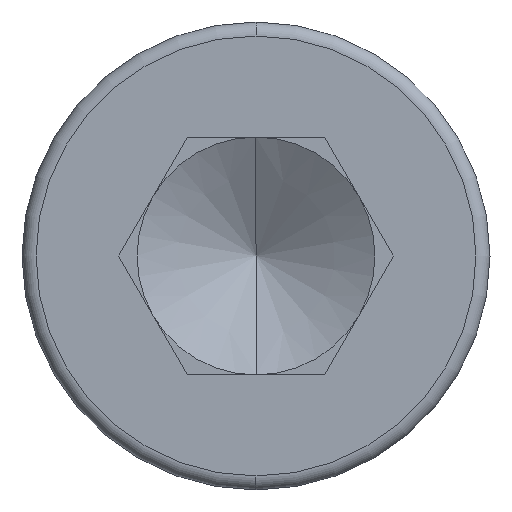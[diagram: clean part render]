
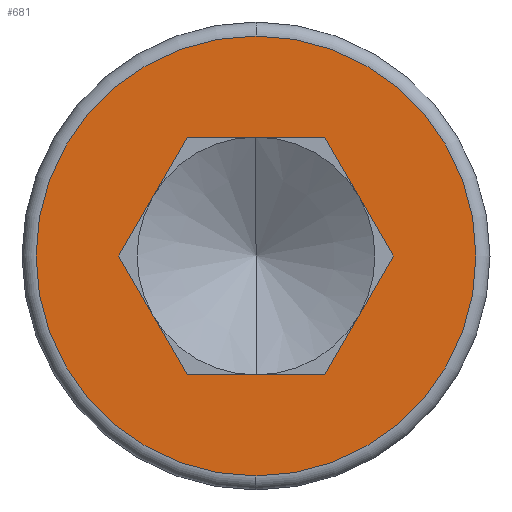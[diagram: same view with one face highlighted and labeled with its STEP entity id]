
A CAD part, left-side view. The second image highlights one B-rep face of the part: STEP entity #681.
In plain terms, the highlighted planar face has unit normal (-1, 0, 0).
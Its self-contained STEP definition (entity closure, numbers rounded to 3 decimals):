
#87 = CIRCLE ( 'NONE', #626, 4.7 ) ;
#232 = CARTESIAN_POINT ( 'NONE',  ( 0., -1.468, 2.542 ) ) ;
#236 = ORIENTED_EDGE ( 'NONE', *, *, #2001, .T. ) ;
#275 = DIRECTION ( 'NONE',  ( 0., 1., 0. ) ) ;
#362 = ORIENTED_EDGE ( 'NONE', *, *, #2121, .F. ) ;
#379 = CARTESIAN_POINT ( 'NONE',  ( 0., 2.935, 0. ) ) ;
#460 = EDGE_CURVE ( 'NONE', #2323, #2537, #1451, .T. ) ;
#488 = ORIENTED_EDGE ( 'NONE', *, *, #612, .T. ) ;
#531 = DIRECTION ( 'NONE',  ( 0., -1., 0. ) ) ;
#537 = CARTESIAN_POINT ( 'NONE',  ( 0., -1.468, 2.542 ) ) ;
#608 = CARTESIAN_POINT ( 'NONE',  ( 0., 0., 0. ) ) ;
#612 = EDGE_CURVE ( 'NONE', #2537, #3528, #1920, .T. ) ;
#626 = AXIS2_PLACEMENT_3D ( 'NONE', #984, #3163, #923 ) ;
#681 = ADVANCED_FACE ( 'NONE', ( #4116, #1243 ), #1264, .T. ) ;
#690 = EDGE_LOOP ( 'NONE', ( #1201, #236 ) ) ;
#780 = VERTEX_POINT ( 'NONE', #3551 ) ;
#865 = VERTEX_POINT ( 'NONE', #1328 ) ;
#923 = DIRECTION ( 'NONE',  ( 0., 0., 1. ) ) ;
#927 = ORIENTED_EDGE ( 'NONE', *, *, #3944, .F. ) ;
#964 = CARTESIAN_POINT ( 'NONE',  ( 0., 2.935, 0. ) ) ;
#984 = CARTESIAN_POINT ( 'NONE',  ( 0., 0., 0. ) ) ;
#998 = CIRCLE ( 'NONE', #3812, 4.7 ) ;
#1201 = ORIENTED_EDGE ( 'NONE', *, *, #3187, .T. ) ;
#1241 = VERTEX_POINT ( 'NONE', #3242 ) ;
#1243 = FACE_OUTER_BOUND ( 'NONE', #690, .T. ) ;
#1264 = PLANE ( 'NONE',  #2046 ) ;
#1328 = CARTESIAN_POINT ( 'NONE',  ( 0., 1.468, 2.542 ) ) ;
#1451 = LINE ( 'NONE', #537, #2245 ) ;
#1613 = LINE ( 'NONE', #964, #1927 ) ;
#1810 = CARTESIAN_POINT ( 'NONE',  ( 0., 0., 0. ) ) ;
#1883 = DIRECTION ( 'NONE',  ( 0., 0., 1. ) ) ;
#1920 = LINE ( 'NONE', #2829, #3863 ) ;
#1927 = VECTOR ( 'NONE', #3880, 1000. ) ;
#2001 = EDGE_CURVE ( 'NONE', #2476, #1241, #87, .T. ) ;
#2014 = CARTESIAN_POINT ( 'NONE',  ( 0., 2.935, 0. ) ) ;
#2046 = AXIS2_PLACEMENT_3D ( 'NONE', #608, #3124, #1883 ) ;
#2116 = DIRECTION ( 'NONE',  ( 0., 0., 1. ) ) ;
#2121 = EDGE_CURVE ( 'NONE', #780, #3528, #3178, .T. ) ;
#2162 = DIRECTION ( 'NONE',  ( -1., 0., 0. ) ) ;
#2245 = VECTOR ( 'NONE', #2469, 1000. ) ;
#2266 = CARTESIAN_POINT ( 'NONE',  ( 0., -1.468, 2.542 ) ) ;
#2283 = CARTESIAN_POINT ( 'NONE',  ( 0., -1.468, -2.542 ) ) ;
#2323 = VERTEX_POINT ( 'NONE', #2266 ) ;
#2410 = VERTEX_POINT ( 'NONE', #379 ) ;
#2439 = CARTESIAN_POINT ( 'NONE',  ( 0., 1.468, -2.542 ) ) ;
#2469 = DIRECTION ( 'NONE',  ( 0., -0.5, -0.866 ) ) ;
#2476 = VERTEX_POINT ( 'NONE', #2965 ) ;
#2537 = VERTEX_POINT ( 'NONE', #3006 ) ;
#2562 = EDGE_CURVE ( 'NONE', #2410, #780, #2984, .T. ) ;
#2687 = DIRECTION ( 'NONE',  ( 0., -0.5, -0.866 ) ) ;
#2799 = VECTOR ( 'NONE', #2687, 1000. ) ;
#2829 = CARTESIAN_POINT ( 'NONE',  ( 0., -2.935, 0. ) ) ;
#2965 = CARTESIAN_POINT ( 'NONE',  ( 0., 0., -4.7 ) ) ;
#2984 = LINE ( 'NONE', #2014, #2799 ) ;
#3006 = CARTESIAN_POINT ( 'NONE',  ( 0., -2.935, 0. ) ) ;
#3074 = ORIENTED_EDGE ( 'NONE', *, *, #4107, .T. ) ;
#3124 = DIRECTION ( 'NONE',  ( -1., 0., 0. ) ) ;
#3143 = EDGE_LOOP ( 'NONE', ( #3074, #927, #3942, #488, #362, #4051 ) ) ;
#3163 = DIRECTION ( 'NONE',  ( -1., 0., 0. ) ) ;
#3178 = LINE ( 'NONE', #2439, #3976 ) ;
#3187 = EDGE_CURVE ( 'NONE', #1241, #2476, #998, .T. ) ;
#3242 = CARTESIAN_POINT ( 'NONE',  ( 0., 0., 4.7 ) ) ;
#3466 = LINE ( 'NONE', #232, #3747 ) ;
#3528 = VERTEX_POINT ( 'NONE', #2283 ) ;
#3551 = CARTESIAN_POINT ( 'NONE',  ( 0., 1.468, -2.542 ) ) ;
#3747 = VECTOR ( 'NONE', #275, 1000. ) ;
#3812 = AXIS2_PLACEMENT_3D ( 'NONE', #1810, #2162, #2116 ) ;
#3863 = VECTOR ( 'NONE', #4091, 1000. ) ;
#3880 = DIRECTION ( 'NONE',  ( 0., -0.5, 0.866 ) ) ;
#3942 = ORIENTED_EDGE ( 'NONE', *, *, #460, .T. ) ;
#3944 = EDGE_CURVE ( 'NONE', #2323, #865, #3466, .T. ) ;
#3976 = VECTOR ( 'NONE', #531, 1000. ) ;
#4051 = ORIENTED_EDGE ( 'NONE', *, *, #2562, .F. ) ;
#4091 = DIRECTION ( 'NONE',  ( 0., 0.5, -0.866 ) ) ;
#4107 = EDGE_CURVE ( 'NONE', #2410, #865, #1613, .T. ) ;
#4116 = FACE_BOUND ( 'NONE', #3143, .T. ) ;
